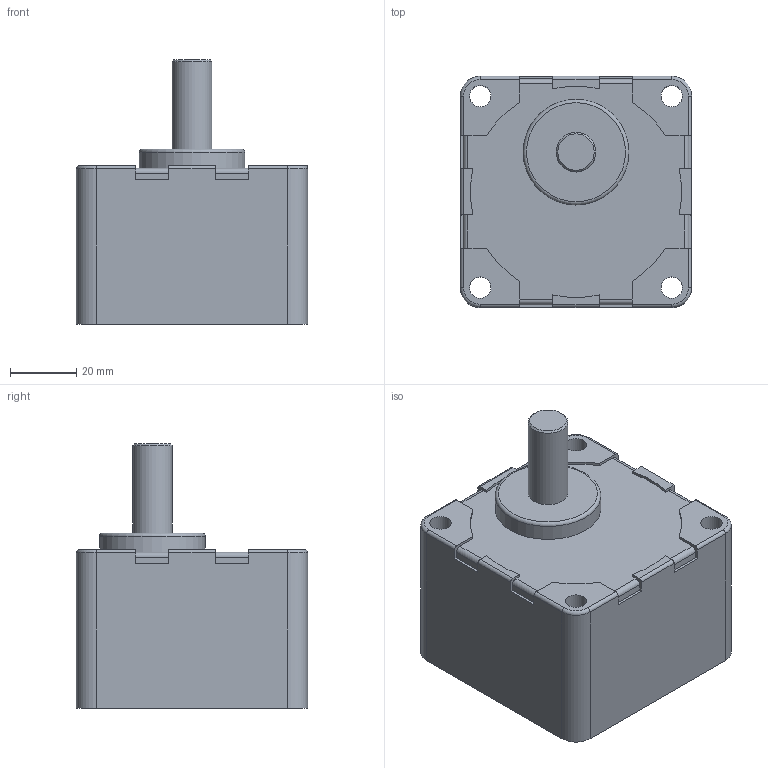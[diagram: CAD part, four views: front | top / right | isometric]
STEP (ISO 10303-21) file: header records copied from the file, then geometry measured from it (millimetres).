
FILE_DESCRIPTION(/* description */ (''),/* implementation_level */ '2;1');
FILE_NAME(/* name */ 'E:\도면작업\2016\0704) 미주향 SG 도면\3D GEAR HEAD\SG7SA150~360.stp',/* time_stamp */ '2016-07-22T14:02:28+09:00',/* author */ ('jy-jung'),/* organization */ (''),/* preprocessor_version */ 'ST-DEVELOPER v15.6',/* originating_system */ 'Autodesk Inventor 2015',/* authorisation */ '');
FILE_SCHEMA (('AUTOMOTIVE_DESIGN { 1 0 10303 214 3 1 1 }'));
Length unit declared in the file: millimetre
Products named in the file (1): SG7SA150~360
Bounding box: 70 x 70 x 80 mm (x, y, z)
Volume: 223348 mm3; surface area: 28697.5 mm2
Topology: 1 solids, 1 shells, 97 faces, 261 edges, 170 vertices
Faces by surface type: plane 50, cylinder 39, torus 5, cone 3
Full cylindrical faces by diameter (mm): 6.5 x4, 7.5 x1, 12 x1, 32 x1, 65 x1
Entity records: 3025 total; most frequent: DIRECTION 531, CARTESIAN_POINT 517, ORIENTED_EDGE 498, EDGE_CURVE 249, AXIS2_PLACEMENT_3D 184, VERTEX_POINT 170, LINE 163, VECTOR 163
